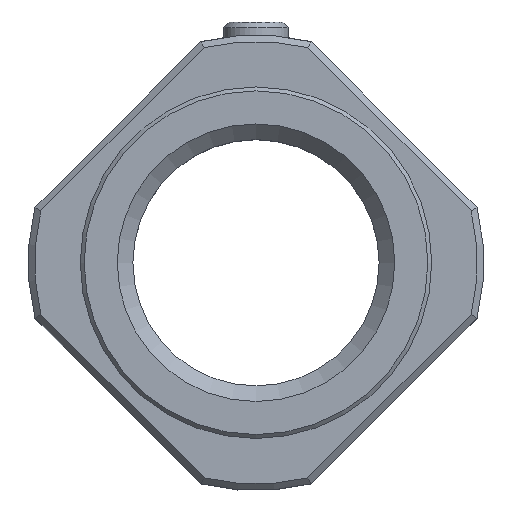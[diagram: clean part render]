
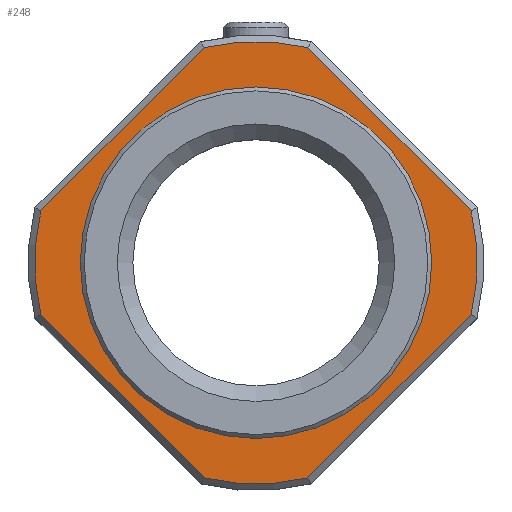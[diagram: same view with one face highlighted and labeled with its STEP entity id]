
A CAD part, top view. The second image highlights one B-rep face of the part: STEP entity #248.
In plain terms, the highlighted planar face has unit normal (0, 0, 1).
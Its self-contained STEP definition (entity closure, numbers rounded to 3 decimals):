
#248=ADVANCED_FACE('',(#646,#648),#650,.F.);
#646=FACE_BOUND('',#647,.T.);
#647=EDGE_LOOP('',(#1004,#1005,#1006,#1007,#1008,#1009,#1010,#1011));
#648=FACE_BOUND('',#649,.T.);
#649=EDGE_LOOP('',(#1012));
#650=PLANE('',#651);
#651=AXIS2_PLACEMENT_3D('',#652,#653,#654);
#652=CARTESIAN_POINT('',(0.,17.5,10.));
#653=DIRECTION('',(0.,0.,-1.));
#654=DIRECTION('',(0.,1.,0.));
#1004=ORIENTED_EDGE('',*,*,#1175,.T.);
#1005=ORIENTED_EDGE('',*,*,#1176,.T.);
#1006=ORIENTED_EDGE('',*,*,#1177,.T.);
#1007=ORIENTED_EDGE('',*,*,#1178,.T.);
#1008=ORIENTED_EDGE('',*,*,#1173,.T.);
#1009=ORIENTED_EDGE('',*,*,#1158,.T.);
#1010=ORIENTED_EDGE('',*,*,#1170,.T.);
#1011=ORIENTED_EDGE('',*,*,#1179,.T.);
#1012=ORIENTED_EDGE('',*,*,#1180,.F.);
#1158=EDGE_CURVE('',#1253,#1255,#1257,.T.);
#1170=EDGE_CURVE('',#1255,#1275,#1277,.T.);
#1173=EDGE_CURVE('',#1281,#1253,#1282,.T.);
#1175=EDGE_CURVE('',#1284,#1285,#1286,.T.);
#1176=EDGE_CURVE('',#1285,#1287,#1288,.T.);
#1177=EDGE_CURVE('',#1287,#1289,#1290,.T.);
#1178=EDGE_CURVE('',#1289,#1281,#1291,.T.);
#1179=EDGE_CURVE('',#1275,#1284,#1292,.T.);
#1180=EDGE_CURVE('',#1293,#1293,#1294,.T.);
#1253=VERTEX_POINT('',#1421);
#1255=VERTEX_POINT('',#1427);
#1257=CIRCLE('',#1433,17.);
#1275=VERTEX_POINT('',#1769);
#1277=LINE('',#1775,#1776);
#1281=VERTEX_POINT('',#1787);
#1282=LINE('',#1788,#1789);
#1284=VERTEX_POINT('',#1796);
#1285=VERTEX_POINT('',#1797);
#1286=LINE('',#1798,#1799);
#1287=VERTEX_POINT('',#1801);
#1288=CIRCLE('',#1802,17.);
#1289=VERTEX_POINT('',#1806);
#1290=LINE('',#1807,#1808);
#1291=CIRCLE('',#1810,17.);
#1292=CIRCLE('',#1814,17.);
#1293=VERTEX_POINT('',#1818);
#1294=CIRCLE('',#1819,13.5);
#1421=CARTESIAN_POINT('',(16.528,-3.978,10.));
#1427=CARTESIAN_POINT('',(16.528,3.978,10.));
#1433=AXIS2_PLACEMENT_3D('',#1434,#1435,#1436);
#1434=CARTESIAN_POINT('',(0.,0.,10.));
#1435=DIRECTION('',(0.,0.,1.));
#1436=DIRECTION('',(0.972,-0.234,0.));
#1769=CARTESIAN_POINT('',(3.978,16.528,10.));
#1775=CARTESIAN_POINT('',(16.528,3.978,10.));
#1776=VECTOR('',#1777,1.);
#1777=DIRECTION('',(-0.707,0.707,0.));
#1787=CARTESIAN_POINT('',(3.978,-16.528,10.));
#1788=CARTESIAN_POINT('',(3.978,-16.528,10.));
#1789=VECTOR('',#1790,1.);
#1790=DIRECTION('',(0.707,0.707,0.));
#1796=CARTESIAN_POINT('',(-3.978,16.528,10.));
#1797=CARTESIAN_POINT('',(-16.528,3.978,10.));
#1798=CARTESIAN_POINT('',(-3.978,16.528,10.));
#1799=VECTOR('',#1800,1.);
#1800=DIRECTION('',(-0.707,-0.707,0.));
#1801=CARTESIAN_POINT('',(-16.528,-3.978,10.));
#1802=AXIS2_PLACEMENT_3D('',#1803,#1804,#1805);
#1803=CARTESIAN_POINT('',(0.,0.,10.));
#1804=DIRECTION('',(0.,0.,1.));
#1805=DIRECTION('',(-0.972,0.234,0.));
#1806=CARTESIAN_POINT('',(-3.978,-16.528,10.));
#1807=CARTESIAN_POINT('',(-16.528,-3.978,10.));
#1808=VECTOR('',#1809,1.);
#1809=DIRECTION('',(0.707,-0.707,0.));
#1810=AXIS2_PLACEMENT_3D('',#1811,#1812,#1813);
#1811=CARTESIAN_POINT('',(0.,0.,10.));
#1812=DIRECTION('',(0.,0.,1.));
#1813=DIRECTION('',(-0.234,-0.972,0.));
#1814=AXIS2_PLACEMENT_3D('',#1815,#1816,#1817);
#1815=CARTESIAN_POINT('',(0.,0.,10.));
#1816=DIRECTION('',(0.,0.,1.));
#1817=DIRECTION('',(0.234,0.972,0.));
#1818=CARTESIAN_POINT('',(0.,-13.5,10.));
#1819=AXIS2_PLACEMENT_3D('',#1820,#1821,#1822);
#1820=CARTESIAN_POINT('',(0.,0.,10.));
#1821=DIRECTION('',(-0.,0.,1.));
#1822=DIRECTION('',(0.,-1.,0.));
